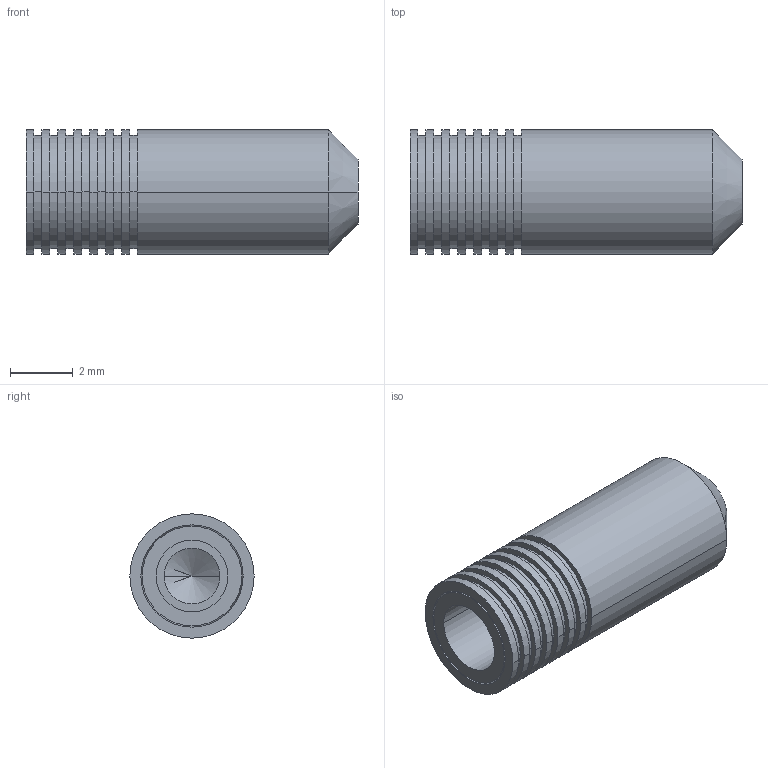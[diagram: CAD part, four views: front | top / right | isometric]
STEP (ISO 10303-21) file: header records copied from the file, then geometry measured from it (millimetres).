
FILE_DESCRIPTION(('CoCreate Modeling STEP Export'),'2;1');
FILE_NAME('PLRA1560010A.stp','2012-01-05T15:51:58',(''),(''),'CoCreate Modeling STEP processor for AP214 (Solid Model)','CoCreate Modeling 17.0 01-Apr-2010 (C) Parametric Technology GmbH','');
FILE_SCHEMA(('AUTOMOTIVE_DESIGN { 1 0 10303 214 1 1 1 1 }'));
Length unit declared in the file: millimetre
Products named in the file (1): PLRA1560010A
Bounding box: 10.59 x 3.96 x 3.96 mm (x, y, z)
Volume: 93.8 mm3; surface area: 238 mm2
Topology: 1 solids, 1 shells, 60 faces, 158 edges, 115 vertices
Faces by surface type: cylinder 36, plane 18, cone 6
Entity records: 1975 total; most frequent: ORIENTED_EDGE 312, CARTESIAN_POINT 235, DIRECTION 198, EDGE_CURVE 156, VERTEX_POINT 115, AXIS2_PLACEMENT_3D 78, EDGE_LOOP 77, COLOUR_RGB 61
